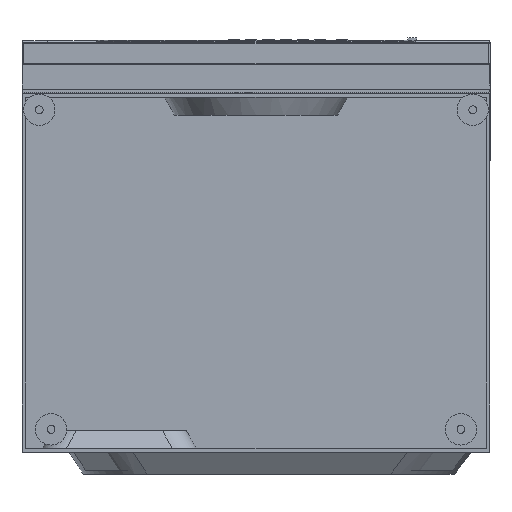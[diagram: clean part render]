
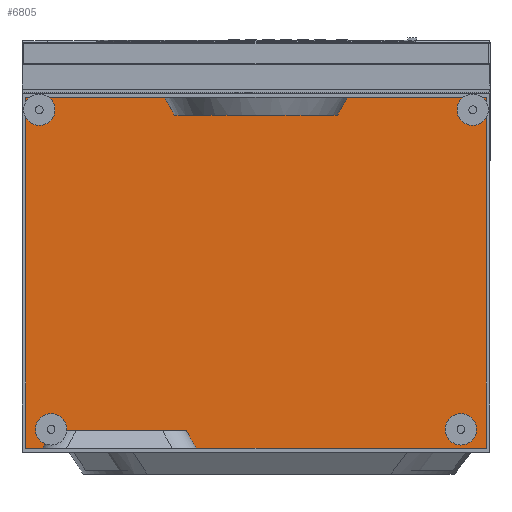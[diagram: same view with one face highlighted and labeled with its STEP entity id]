
A CAD part, front view. The second image highlights one B-rep face of the part: STEP entity #6805.
In plain terms, the highlighted planar face has unit normal (0, -1, 0).
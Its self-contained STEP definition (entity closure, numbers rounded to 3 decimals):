
#65 = LINE ( 'NONE', #2811, #1705 ) ;
#263 = DIRECTION ( 'NONE',  ( 0., 0., 1. ) ) ;
#629 = ORIENTED_EDGE ( 'NONE', *, *, #10174, .F. ) ;
#1293 = EDGE_CURVE ( 'NONE', #10234, #2104, #12962, .T. ) ;
#1468 = VERTEX_POINT ( 'NONE', #12026 ) ;
#1705 = VECTOR ( 'NONE', #10178, 1000. ) ;
#2104 = VERTEX_POINT ( 'NONE', #11739 ) ;
#2229 = CARTESIAN_POINT ( 'NONE',  ( -293., 799., -276. ) ) ;
#2417 = CARTESIAN_POINT ( 'NONE',  ( 0., 799., -243. ) ) ;
#2811 = CARTESIAN_POINT ( 'NONE',  ( 0., 799., 245.8 ) ) ;
#2941 = EDGE_CURVE ( 'NONE', #10234, #1468, #11934, .T. ) ;
#3086 = CARTESIAN_POINT ( 'NONE',  ( 293., 799., 245.8 ) ) ;
#3621 = VECTOR ( 'NONE', #263, 1000. ) ;
#4294 = VECTOR ( 'NONE', #10262, 1000. ) ;
#4467 = LINE ( 'NONE', #10305, #4294 ) ;
#5134 = VECTOR ( 'NONE', #10491, 1000. ) ;
#5677 = ORIENTED_EDGE ( 'NONE', *, *, #2941, .F. ) ;
#6005 = DIRECTION ( 'NONE',  ( 0., 0., 1. ) ) ;
#6125 = ORIENTED_EDGE ( 'NONE', *, *, #11051, .F. ) ;
#6805 = ADVANCED_FACE ( 'NONE', ( #10790 ), #13394, .F. ) ;
#7162 = CARTESIAN_POINT ( 'NONE',  ( -293., 799., -243. ) ) ;
#7711 = ORIENTED_EDGE ( 'NONE', *, *, #1293, .T. ) ;
#8190 = CARTESIAN_POINT ( 'NONE',  ( 0., 799., 0. ) ) ;
#8262 = VERTEX_POINT ( 'NONE', #3086 ) ;
#8712 = AXIS2_PLACEMENT_3D ( 'NONE', #8190, #9051, #6005 ) ;
#9051 = DIRECTION ( 'NONE',  ( 0., 1., 0. ) ) ;
#10174 = EDGE_CURVE ( 'NONE', #1468, #8262, #65, .T. ) ;
#10178 = DIRECTION ( 'NONE',  ( 1., 0., 0. ) ) ;
#10234 = VERTEX_POINT ( 'NONE', #7162 ) ;
#10262 = DIRECTION ( 'NONE',  ( 0., 0., -1. ) ) ;
#10305 = CARTESIAN_POINT ( 'NONE',  ( 293., 799., -276. ) ) ;
#10491 = DIRECTION ( 'NONE',  ( 1., 0., 0. ) ) ;
#10790 = FACE_OUTER_BOUND ( 'NONE', #12386, .T. ) ;
#11051 = EDGE_CURVE ( 'NONE', #8262, #2104, #4467, .T. ) ;
#11739 = CARTESIAN_POINT ( 'NONE',  ( 293., 799., -243. ) ) ;
#11934 = LINE ( 'NONE', #2229, #3621 ) ;
#12026 = CARTESIAN_POINT ( 'NONE',  ( -293., 799., 245.8 ) ) ;
#12386 = EDGE_LOOP ( 'NONE', ( #629, #5677, #7711, #6125 ) ) ;
#12962 = LINE ( 'NONE', #2417, #5134 ) ;
#13394 = PLANE ( 'NONE',  #8712 ) ;
